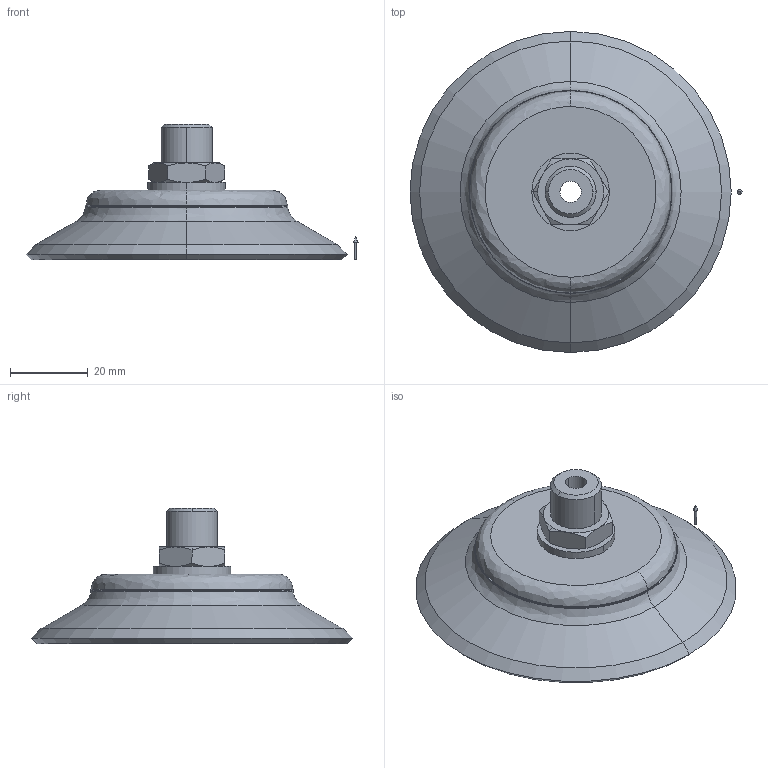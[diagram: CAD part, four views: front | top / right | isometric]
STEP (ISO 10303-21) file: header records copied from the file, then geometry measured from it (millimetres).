
FILE_DESCRIPTION (( 'STEP AP203' ), '1' );
FILE_NAME ('PFYN-60-NBR-55.STEP', '2024-03-04T03:09:36', ( '微软用户' ), ( '微软中国' ), 'SwSTEP 2.0', 'SolidWorks 2018', '' );
FILE_SCHEMA (( 'CONFIG_CONTROL_DESIGN' ));
Length unit declared in the file: millimetre
Products named in the file (3): PFYN-60-NBR-55; 1; 1_2
Assembly tree (2 placements, depth 2):
  PFYN-60-NBR-55
    1
    1_2
Bounding box: 85.61 x 82.83 x 35 mm (x, y, z)
Volume: 37096.3 mm3; surface area: 14618.1 mm2
Topology: 2 solids, 4 shells, 85 faces, 178 edges, 105 vertices
Faces by surface type: cone 30, cylinder 20, plane 19, bspline 16
Entity records: 2821 total; most frequent: CARTESIAN_POINT 737, DIRECTION 404, ORIENTED_EDGE 352, AXIS2_PLACEMENT_3D 180, EDGE_CURVE 176, CIRCLE 106, VERTEX_POINT 105, EDGE_LOOP 97
